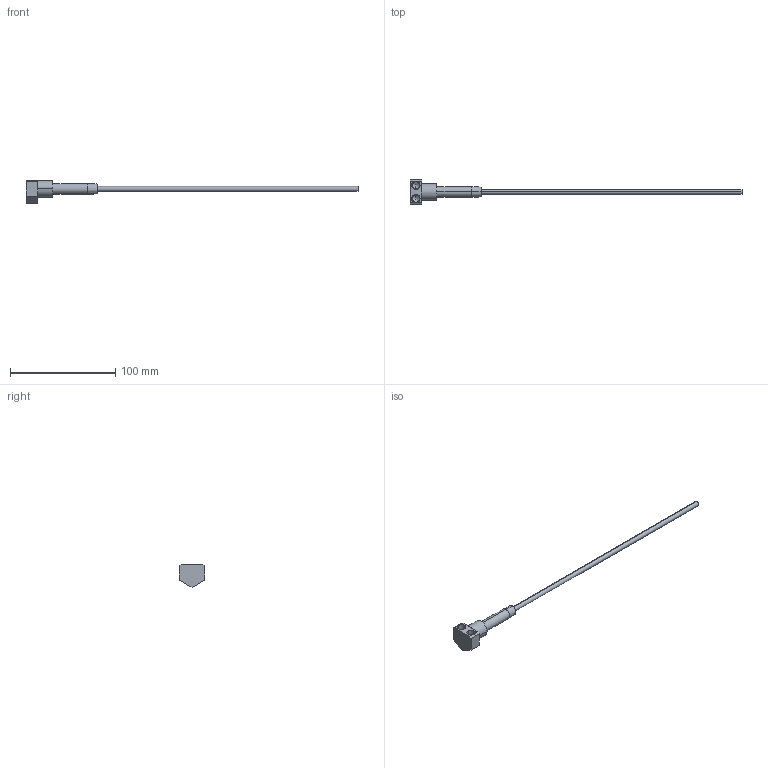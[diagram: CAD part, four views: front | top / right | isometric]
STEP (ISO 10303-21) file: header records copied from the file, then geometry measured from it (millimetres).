
FILE_DESCRIPTION (( 'STEP AP203' ), '1' );
FILE_NAME ('CC1816.step', '2022-01-27T16:30:35', ( 'Microsoft Corporation' ), ( 'MS' ), 'SwSTEP 2.0', 'SolidWorks 2019', '' );
FILE_SCHEMA (( 'CONFIG_CONTROL_DESIGN' ));
Length unit declared in the file: inch
Products named in the file (4): CC1816; GPN12L2; CCH1816; HFT187L12
Assembly tree (3 placements, depth 2):
  CC1816
    CCH1816
    GPN12L2
    HFT187L12
Bounding box: 314.96 x 23.81 x 21.69 mm (x, y, z)
Volume: 8678.6 mm3; surface area: 15017.6 mm2
Topology: 3 solids, 3 shells, 51 faces, 129 edges, 81 vertices
Faces by surface type: cylinder 22, plane 19, cone 10
Entity records: 2248 total; most frequent: CARTESIAN_POINT 585, DIRECTION 280, ORIENTED_EDGE 250, EDGE_CURVE 125, AXIS2_PLACEMENT_3D 110, VERTEX_POINT 81, EDGE_LOOP 60, VECTOR 60
